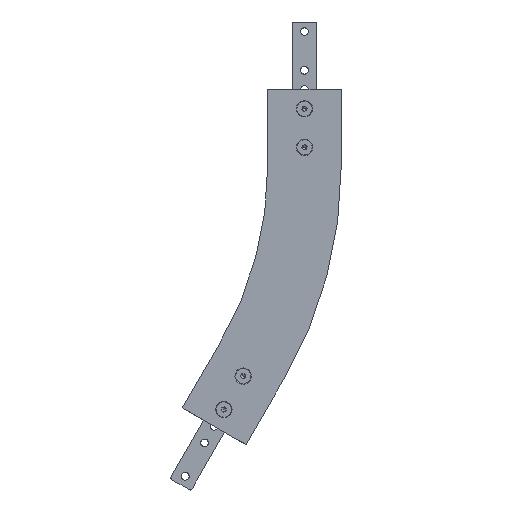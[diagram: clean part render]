
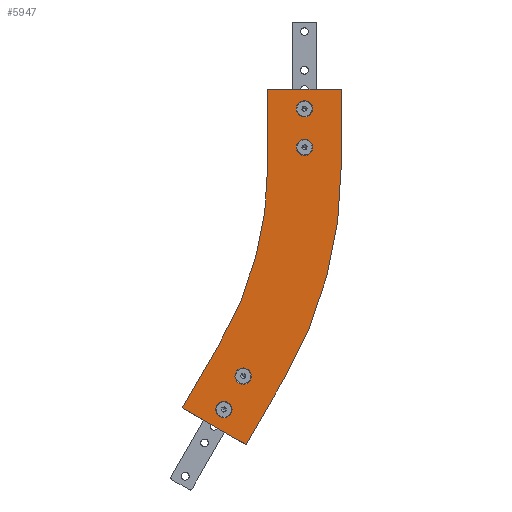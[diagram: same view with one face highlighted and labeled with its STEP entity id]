
A CAD part, left-side view. The second image highlights one B-rep face of the part: STEP entity #5947.
In plain terms, the highlighted planar face has unit normal (-1, 0, 0).
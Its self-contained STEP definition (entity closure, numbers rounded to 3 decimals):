
#534 = CARTESIAN_POINT ( 'NONE',  ( 0., 38.15, -51.5 ) ) ;
#1768 = CARTESIAN_POINT ( 'NONE',  ( 0., 58.701, -299.075 ) ) ;
#1769 = LINE ( 'NONE', #1768, #1795 ) ;
#1792 = CARTESIAN_POINT ( 'NONE',  ( 0., 58.701, -299.075 ) ) ;
#1793 = LINE ( 'NONE', #1852, #1851 ) ;
#1794 = DIRECTION ( 'NONE',  ( 0., 0.5, -0.866 ) ) ;
#1795 = VECTOR ( 'NONE', #1794, 1000. ) ;
#1850 = DIRECTION ( 'NONE',  ( 0., 0.5, -0.866 ) ) ;
#1851 = VECTOR ( 'NONE', #1850, 1000. ) ;
#1852 = CARTESIAN_POINT ( 'NONE',  ( 0., 124.779, -260.925 ) ) ;
#1978 = CARTESIAN_POINT ( 'NONE',  ( 0., 121.74, -331.962 ) ) ;
#1979 = CARTESIAN_POINT ( 'NONE',  ( 0., 121.74, -340.462 ) ) ;
#2142 = CARTESIAN_POINT ( 'NONE',  ( 0., 121.74, -323.462 ) ) ;
#2143 = DIRECTION ( 'NONE',  ( 0., 0., 1. ) ) ;
#2144 = DIRECTION ( 'NONE',  ( 1., 0., 0. ) ) ;
#2145 = AXIS2_PLACEMENT_3D ( 'NONE', #1978, #2144, #2143 ) ;
#2146 = CIRCLE ( 'NONE', #2145, 8.5 ) ;
#2147 = LINE ( 'NONE', #2521, #2833 ) ;
#2169 = CARTESIAN_POINT ( 'NONE',  ( 0., 101.74, -305.821 ) ) ;
#2308 = CIRCLE ( 'NONE', #2358, 8.5 ) ;
#2354 = CARTESIAN_POINT ( 'NONE',  ( 0., 101.74, -288.821 ) ) ;
#2355 = DIRECTION ( 'NONE',  ( 0., 0., 1. ) ) ;
#2356 = DIRECTION ( 'NONE',  ( 1., 0., 0. ) ) ;
#2357 = CARTESIAN_POINT ( 'NONE',  ( 0., 101.74, -297.321 ) ) ;
#2358 = AXIS2_PLACEMENT_3D ( 'NONE', #2357, #2356, #2355 ) ;
#2406 = CARTESIAN_POINT ( 'NONE',  ( 0., 38.15, -68.5 ) ) ;
#2520 = CARTESIAN_POINT ( 'NONE',  ( 0., 0., 0. ) ) ;
#2521 = CARTESIAN_POINT ( 'NONE',  ( 0., 0., -80. ) ) ;
#2537 = CARTESIAN_POINT ( 'NONE',  ( 0., 38.15, -11.5 ) ) ;
#2634 = DIRECTION ( 'NONE',  ( 0., 0., 1. ) ) ;
#2635 = DIRECTION ( 'NONE',  ( 1., 0., 0. ) ) ;
#2636 = CARTESIAN_POINT ( 'NONE',  ( 0., 38.15, -20. ) ) ;
#2637 = AXIS2_PLACEMENT_3D ( 'NONE', #2636, #2635, #2634 ) ;
#2642 = DIRECTION ( 'NONE',  ( 0., 0., 1. ) ) ;
#2643 = DIRECTION ( 'NONE',  ( 1., 0., 0. ) ) ;
#2644 = CARTESIAN_POINT ( 'NONE',  ( 0., 38.15, -60. ) ) ;
#2645 = AXIS2_PLACEMENT_3D ( 'NONE', #2644, #2643, #2642 ) ;
#2646 = CIRCLE ( 'NONE', #2645, 8.5 ) ;
#2647 = DIRECTION ( 'NONE',  ( 0., 0., 1. ) ) ;
#2648 = DIRECTION ( 'NONE',  ( 1., 0., 0. ) ) ;
#2649 = CARTESIAN_POINT ( 'NONE',  ( 0., 38.15, -20. ) ) ;
#2650 = AXIS2_PLACEMENT_3D ( 'NONE', #2649, #2648, #2647 ) ;
#2651 = CIRCLE ( 'NONE', #2650, 8.5 ) ;
#2652 = CARTESIAN_POINT ( 'NONE',  ( 0., 38.15, -28.5 ) ) ;
#2666 = CIRCLE ( 'NONE', #2637, 8.5 ) ;
#2684 = DIRECTION ( 'NONE',  ( 0., -0.866, -0.5 ) ) ;
#2685 = VECTOR ( 'NONE', #2684, 1000. ) ;
#2686 = CARTESIAN_POINT ( 'NONE',  ( 0., 164.779, -330.207 ) ) ;
#2687 = LINE ( 'NONE', #2686, #2685 ) ;
#2698 = PLANE ( 'NONE',  #2829 ) ;
#2699 = FACE_BOUND ( 'NONE', #5927, .T. ) ;
#2700 = FACE_BOUND ( 'NONE', #5948, .T. ) ;
#2734 = DIRECTION ( 'NONE',  ( 0., 0., -1. ) ) ;
#2735 = DIRECTION ( 'NONE',  ( 1., 0., 0. ) ) ;
#2736 = CARTESIAN_POINT ( 'NONE',  ( 0., 438.15, -80. ) ) ;
#2737 = AXIS2_PLACEMENT_3D ( 'NONE', #2736, #2735, #2734 ) ;
#2738 = CIRCLE ( 'NONE', #2737, 361.85 ) ;
#2799 = CARTESIAN_POINT ( 'NONE',  ( 0., 0., -80. ) ) ;
#2827 = DIRECTION ( 'NONE',  ( -1., 0., 0. ) ) ;
#2828 = CARTESIAN_POINT ( 'NONE',  ( 0., 76.3, -80. ) ) ;
#2829 = AXIS2_PLACEMENT_3D ( 'NONE', #2828, #2827, #2848 ) ;
#2830 = FACE_BOUND ( 'NONE', #6461, .T. ) ;
#2831 = FACE_BOUND ( 'NONE', #5931, .T. ) ;
#2832 = DIRECTION ( 'NONE',  ( 0., 0., 1. ) ) ;
#2833 = VECTOR ( 'NONE', #2832, 1000. ) ;
#2834 = FACE_OUTER_BOUND ( 'NONE', #6465, .T. ) ;
#2848 = DIRECTION ( 'NONE',  ( 0., 0., 1. ) ) ;
#2892 = CARTESIAN_POINT ( 'NONE',  ( 0., 76.3, -80. ) ) ;
#2902 = DIRECTION ( 'NONE',  ( 0., 0., 1. ) ) ;
#2903 = VECTOR ( 'NONE', #2902, 1000. ) ;
#2910 = CARTESIAN_POINT ( 'NONE',  ( 0., 124.779, -260.925 ) ) ;
#2914 = CARTESIAN_POINT ( 'NONE',  ( 0., 76.3, -80. ) ) ;
#2915 = LINE ( 'NONE', #2914, #2903 ) ;
#2992 = CARTESIAN_POINT ( 'NONE',  ( 0., 76.3, 0. ) ) ;
#3031 = CARTESIAN_POINT ( 'NONE',  ( 0., 164.779, -330.207 ) ) ;
#3041 = DIRECTION ( 'NONE',  ( 0., 0., -1. ) ) ;
#3042 = DIRECTION ( 'NONE',  ( 1., 0., 0. ) ) ;
#3043 = AXIS2_PLACEMENT_3D ( 'NONE', #3086, #3042, #3041 ) ;
#3044 = CIRCLE ( 'NONE', #3043, 438.15 ) ;
#3060 = CARTESIAN_POINT ( 'NONE',  ( 0., 98.701, -368.357 ) ) ;
#3086 = CARTESIAN_POINT ( 'NONE',  ( 0., 438.15, -80. ) ) ;
#3510 = DIRECTION ( 'NONE',  ( 0., -1., 0. ) ) ;
#3511 = VECTOR ( 'NONE', #3510, 1000. ) ;
#3512 = CARTESIAN_POINT ( 'NONE',  ( 0., 76.3, 0. ) ) ;
#3513 = LINE ( 'NONE', #3512, #3511 ) ;
#3514 = DIRECTION ( 'NONE',  ( 0., 0., 1. ) ) ;
#3515 = DIRECTION ( 'NONE',  ( 1., 0., 0. ) ) ;
#3516 = CARTESIAN_POINT ( 'NONE',  ( 0., 121.74, -331.962 ) ) ;
#3517 = AXIS2_PLACEMENT_3D ( 'NONE', #3516, #3515, #3514 ) ;
#3518 = CIRCLE ( 'NONE', #3517, 8.5 ) ;
#3519 = DIRECTION ( 'NONE',  ( 0., 0., 1. ) ) ;
#3520 = DIRECTION ( 'NONE',  ( 1., 0., 0. ) ) ;
#3521 = CARTESIAN_POINT ( 'NONE',  ( 0., 101.74, -297.321 ) ) ;
#3522 = AXIS2_PLACEMENT_3D ( 'NONE', #3521, #3520, #3519 ) ;
#3523 = CIRCLE ( 'NONE', #3522, 8.5 ) ;
#5284 = EDGE_CURVE ( 'NONE', #5413, #5841, #7248, .T. ) ;
#5413 = VERTEX_POINT ( 'NONE', #534 ) ;
#5672 = VERTEX_POINT ( 'NONE', #1792 ) ;
#5675 = EDGE_CURVE ( 'NONE', #5672, #6156, #1769, .T. ) ;
#5677 = EDGE_CURVE ( 'NONE', #6070, #6094, #1793, .T. ) ;
#5761 = VERTEX_POINT ( 'NONE', #1979 ) ;
#5763 = EDGE_CURVE ( 'NONE', #5764, #5761, #2146, .T. ) ;
#5764 = VERTEX_POINT ( 'NONE', #2142 ) ;
#5775 = VERTEX_POINT ( 'NONE', #2169 ) ;
#5829 = EDGE_CURVE ( 'NONE', #5830, #5775, #2308, .T. ) ;
#5830 = VERTEX_POINT ( 'NONE', #2354 ) ;
#5841 = VERTEX_POINT ( 'NONE', #2406 ) ;
#5890 = VERTEX_POINT ( 'NONE', #2652 ) ;
#5892 = EDGE_CURVE ( 'NONE', #5893, #5890, #2666, .T. ) ;
#5893 = VERTEX_POINT ( 'NONE', #2537 ) ;
#5921 = ORIENTED_EDGE ( 'NONE', *, *, #5922, .T. ) ;
#5922 = EDGE_CURVE ( 'NONE', #6094, #6156, #2687, .T. ) ;
#5923 = ORIENTED_EDGE ( 'NONE', *, *, #5675, .F. ) ;
#5924 = ORIENTED_EDGE ( 'NONE', *, *, #5892, .T. ) ;
#5925 = ORIENTED_EDGE ( 'NONE', *, *, #5926, .T. ) ;
#5926 = EDGE_CURVE ( 'NONE', #5890, #5893, #2651, .T. ) ;
#5927 = EDGE_LOOP ( 'NONE', ( #5928, #5929 ) ) ;
#5928 = ORIENTED_EDGE ( 'NONE', *, *, #5284, .T. ) ;
#5929 = ORIENTED_EDGE ( 'NONE', *, *, #5930, .T. ) ;
#5930 = EDGE_CURVE ( 'NONE', #5841, #5413, #2646, .T. ) ;
#5931 = EDGE_LOOP ( 'NONE', ( #6458, #6459 ) ) ;
#5932 = ORIENTED_EDGE ( 'NONE', *, *, #6088, .F. ) ;
#5933 = ORIENTED_EDGE ( 'NONE', *, *, #5944, .T. ) ;
#5942 = VERTEX_POINT ( 'NONE', #2520 ) ;
#5944 = EDGE_CURVE ( 'NONE', #6030, #5942, #2147, .T. ) ;
#5947 = ADVANCED_FACE ( 'NONE', ( #2700, #2699, #2831, #2830, #2834 ), #2698, .T. ) ;
#5948 = EDGE_LOOP ( 'NONE', ( #5924, #5925 ) ) ;
#5992 = EDGE_CURVE ( 'NONE', #6165, #6070, #2738, .T. ) ;
#6030 = VERTEX_POINT ( 'NONE', #2799 ) ;
#6070 = VERTEX_POINT ( 'NONE', #2910 ) ;
#6076 = VERTEX_POINT ( 'NONE', #2992 ) ;
#6081 = EDGE_CURVE ( 'NONE', #6165, #6076, #2915, .T. ) ;
#6088 = EDGE_CURVE ( 'NONE', #6030, #5672, #3044, .T. ) ;
#6094 = VERTEX_POINT ( 'NONE', #3031 ) ;
#6156 = VERTEX_POINT ( 'NONE', #3060 ) ;
#6165 = VERTEX_POINT ( 'NONE', #2892 ) ;
#6458 = ORIENTED_EDGE ( 'NONE', *, *, #5829, .T. ) ;
#6459 = ORIENTED_EDGE ( 'NONE', *, *, #6460, .T. ) ;
#6460 = EDGE_CURVE ( 'NONE', #5775, #5830, #3523, .T. ) ;
#6461 = EDGE_LOOP ( 'NONE', ( #6462, #6463 ) ) ;
#6462 = ORIENTED_EDGE ( 'NONE', *, *, #5763, .T. ) ;
#6463 = ORIENTED_EDGE ( 'NONE', *, *, #6464, .T. ) ;
#6464 = EDGE_CURVE ( 'NONE', #5761, #5764, #3518, .T. ) ;
#6465 = EDGE_LOOP ( 'NONE', ( #6466, #6468, #6469, #6470, #5921, #5923, #5932, #5933 ) ) ;
#6466 = ORIENTED_EDGE ( 'NONE', *, *, #6467, .F. ) ;
#6467 = EDGE_CURVE ( 'NONE', #6076, #5942, #3513, .T. ) ;
#6468 = ORIENTED_EDGE ( 'NONE', *, *, #6081, .F. ) ;
#6469 = ORIENTED_EDGE ( 'NONE', *, *, #5992, .T. ) ;
#6470 = ORIENTED_EDGE ( 'NONE', *, *, #5677, .T. ) ;
#7244 = DIRECTION ( 'NONE',  ( 0., 0., 1. ) ) ;
#7245 = DIRECTION ( 'NONE',  ( 1., 0., 0. ) ) ;
#7246 = CARTESIAN_POINT ( 'NONE',  ( 0., 38.15, -60. ) ) ;
#7247 = AXIS2_PLACEMENT_3D ( 'NONE', #7246, #7245, #7244 ) ;
#7248 = CIRCLE ( 'NONE', #7247, 8.5 ) ;
